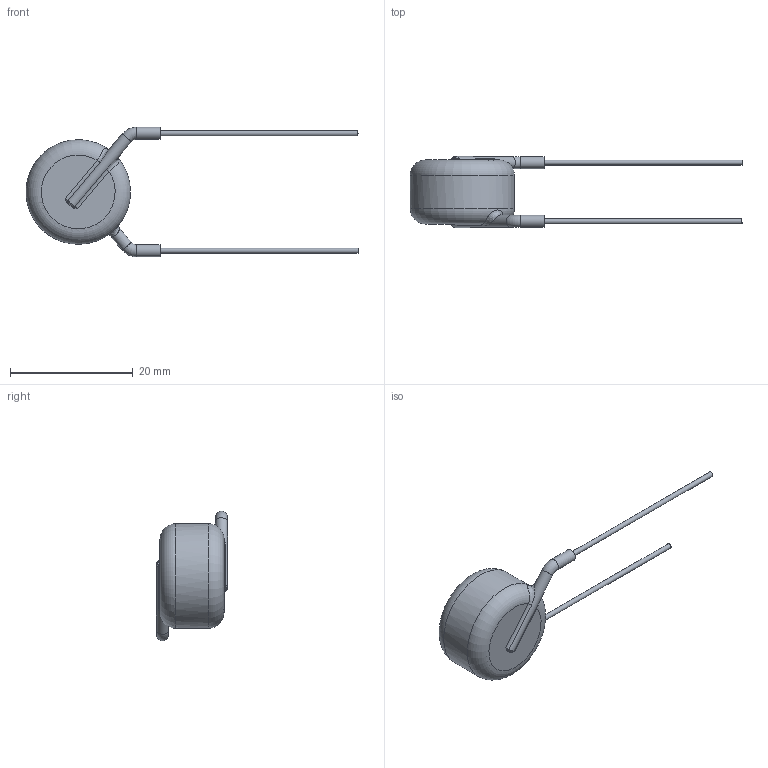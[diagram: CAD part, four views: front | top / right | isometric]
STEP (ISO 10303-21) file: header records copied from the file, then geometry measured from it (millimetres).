
FILE_DESCRIPTION((''),'2;1');
FILE_NAME('I:\Marketing\M6t1\3D-Models\Zchng-Werk-3\Upload for homepage\Ceramite\X5F-15kV\615R150GAT25\615R150GAT25.stp','2015-08-28T11:59:40',(''),(''),'Autodesk Inventor 2013','Autodesk Inventor 2013','');
FILE_SCHEMA(('AUTOMOTIVE_DESIGN { 1 0 10303 214 1 1 1 1 }'));
Length unit declared in the file: centimetre
Products named in the file (1): 615R150GAT25
Bounding box: 54 x 11.56 x 21.06 mm (x, y, z)
Volume: 2339.4 mm3; surface area: 1180.8 mm2
Topology: 1 solids, 1 shells, 42 faces, 94 edges, 52 vertices
Faces by surface type: cylinder 13, torus 11, bspline 10, plane 8
Full cylindrical faces by diameter (mm): 0.81 x2, 1.96 x4, 17 x1
Entity records: 1474 total; most frequent: CARTESIAN_POINT 641, DIRECTION 152, ORIENTED_EDGE 140, AXIS2_PLACEMENT_3D 70, EDGE_CURVE 70, EDGE_LOOP 54, VERTEX_POINT 44, STYLED_ITEM 42
